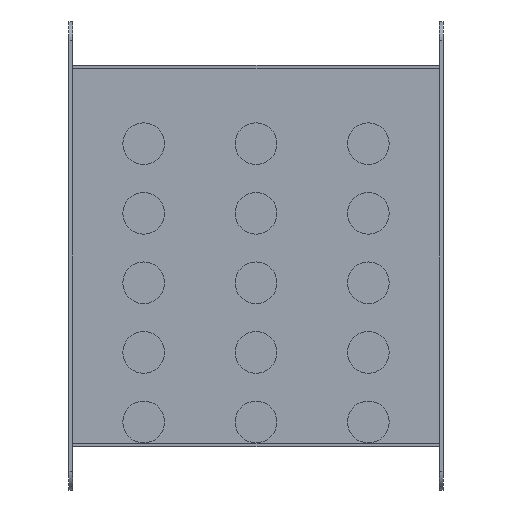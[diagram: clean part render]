
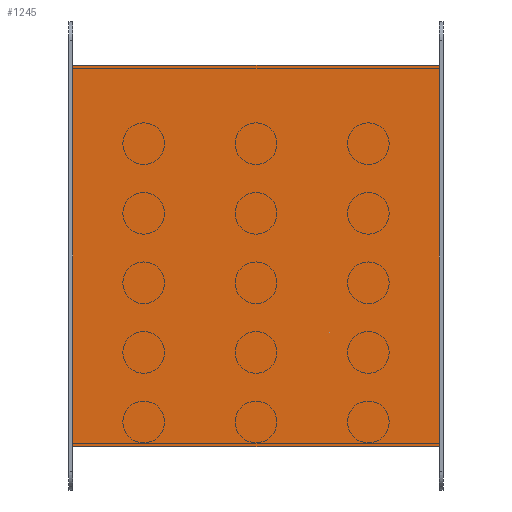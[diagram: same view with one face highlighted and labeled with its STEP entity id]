
A CAD part, left-side view. The second image highlights one B-rep face of the part: STEP entity #1245.
In plain terms, the highlighted planar face has unit normal (-1, 0, 0).
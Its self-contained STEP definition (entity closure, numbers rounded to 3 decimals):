
#116=PLANE('',#1390);
#171=LINE('',#1967,#255);
#188=LINE('',#2037,#272);
#200=LINE('',#2072,#284);
#201=LINE('',#2073,#285);
#255=VECTOR('',#1609,10.);
#272=VECTOR('',#1684,10.);
#284=VECTOR('',#1728,10.);
#285=VECTOR('',#1729,10.);
#388=FACE_OUTER_BOUND('',#489,.T.);
#489=EDGE_LOOP('',(#1099,#1100,#1101,#1102));
#684=VERTEX_POINT('',#1964);
#685=VERTEX_POINT('',#1966);
#708=VERTEX_POINT('',#2034);
#709=VERTEX_POINT('',#2036);
#815=EDGE_CURVE('',#685,#684,#171,.T.);
#846=EDGE_CURVE('',#709,#708,#188,.T.);
#864=EDGE_CURVE('',#709,#684,#200,.F.);
#865=EDGE_CURVE('',#708,#685,#201,.T.);
#1099=ORIENTED_EDGE('',*,*,#815,.T.);
#1100=ORIENTED_EDGE('',*,*,#864,.F.);
#1101=ORIENTED_EDGE('',*,*,#846,.T.);
#1102=ORIENTED_EDGE('',*,*,#865,.T.);
#1245=ADVANCED_FACE('',(#388),#116,.T.);
#1390=AXIS2_PLACEMENT_3D('',#2071,#1726,#1727);
#1609=DIRECTION('',(0.,0.,-1.));
#1684=DIRECTION('',(0.,0.,1.));
#1726=DIRECTION('center_axis',(-1.,0.,0.));
#1727=DIRECTION('ref_axis',(0.,0.,1.));
#1728=DIRECTION('',(0.,-1.,0.));
#1729=DIRECTION('',(0.,1.,0.));
#1964=CARTESIAN_POINT('',(-202.,98.,-102.));
#1966=CARTESIAN_POINT('',(-202.,98.,102.));
#1967=CARTESIAN_POINT('',(-202.,98.,-50.));
#2034=CARTESIAN_POINT('',(-202.,-98.,102.));
#2036=CARTESIAN_POINT('',(-202.,-98.,-102.));
#2037=CARTESIAN_POINT('',(-202.,-98.,-50.));
#2071=CARTESIAN_POINT('Origin',(-202.,-100.,-100.));
#2072=CARTESIAN_POINT('',(-202.,-100.,-102.));
#2073=CARTESIAN_POINT('',(-202.,-100.,102.));
